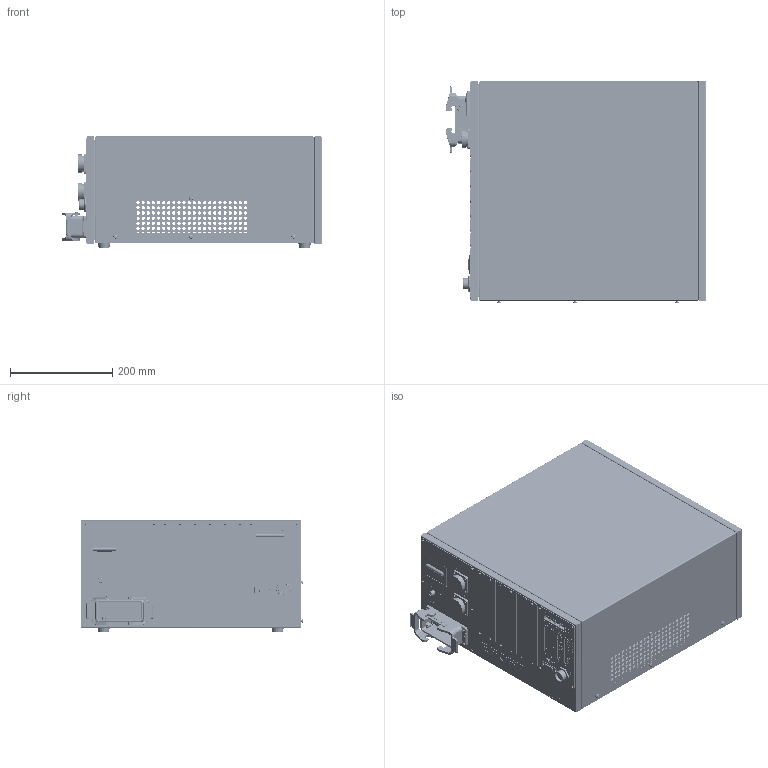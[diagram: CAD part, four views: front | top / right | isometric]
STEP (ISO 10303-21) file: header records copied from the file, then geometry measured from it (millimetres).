
FILE_DESCRIPTION (( 'STEP AP214' ), '1' );
FILE_NAME ('S倰萇嶄-IP20 夥厙耀倰2.STEP', '2023-06-16T02:59:48', ( '' ), ( '' ), 'SwSTEP 2.0', 'SolidWorks 2021', '' );
FILE_SCHEMA (( 'AUTOMOTIVE_DESIGN' ));
Length unit declared in the file: millimetre
Products named in the file (12): 盓傅褐; 尨諒ん諉諳1; 十字槽盘头螺钉M4×8-镀锌; EC-S6-5-000V1.0 S倰諷秶嶄嶄极; PCB1; 厙諳髡夔等啋22; DB9; 笭婥蟀諉ん16B; 剿繚ん; 萇嶄掛极諉華翐; S倰萇嶄-IP20 夥厙耀倰2; 滅阨蟀諉ん
Assembly tree (21 placements, depth 2):
  S倰萇嶄-IP20 夥厙耀倰2
    EC-S6-5-000V1.0 S倰諷秶嶄嶄极
    笭婥蟀諉ん16B
    滅阨蟀諉ん  x2
    萇嶄掛极諉華翐
    十字槽盘头螺钉M4×8-镀锌  x4
    盓傅褐  x4
    剿繚ん
    厙諳髡夔等啋22
    尨諒ん諉諳1
    PCB1  x4
    DB9
Bounding box: 508.1 x 435 x 217 mm (x, y, z)
Volume: 1033726.3 mm3; surface area: 1832214 mm2
Topology: 69 solids, 73 shells, 11911 faces, 32177 edges, 21175 vertices
Faces by surface type: plane 7705, bspline 2837, cylinder 1209, torus 74, cone 70, sphere 16
Entity records: 606715 total; most frequent: CARTESIAN_POINT 212979, ORIENTED_EDGE 63262, DIRECTION 45677, EDGE_CURVE 31631, LINE 23545, VECTOR 23545, VERTEX_POINT 20849, EDGE_LOOP 13664
